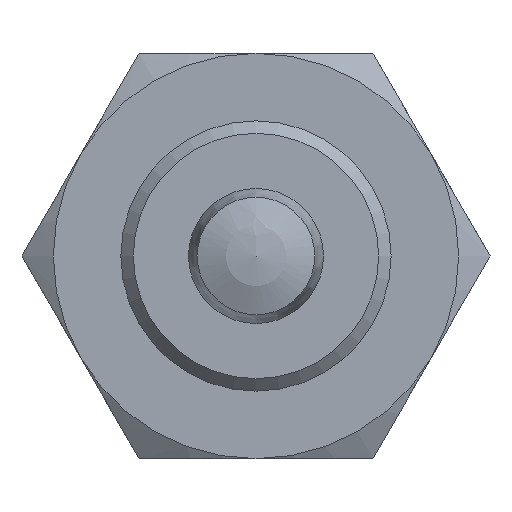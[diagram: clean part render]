
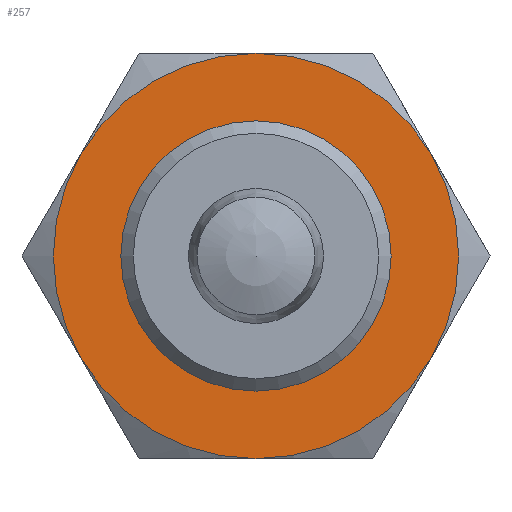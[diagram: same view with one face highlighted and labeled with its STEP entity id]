
A CAD part, front view. The second image highlights one B-rep face of the part: STEP entity #257.
In plain terms, the highlighted planar face has unit normal (0, -1, 0).
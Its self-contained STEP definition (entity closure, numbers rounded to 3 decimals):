
#257 = ADVANCED_FACE( '', ( #387, #388 ), #389, .F. );
#387 = FACE_BOUND( '', #525, .T. );
#388 = FACE_OUTER_BOUND( '', #526, .T. );
#389 = PLANE( '', #527 );
#525 = EDGE_LOOP( '', ( #864 ) );
#526 = EDGE_LOOP( '', ( #865, #866, #867, #868, #869, #870 ) );
#527 = AXIS2_PLACEMENT_3D( '', #871, #872, #873 );
#864 = ORIENTED_EDGE( '', *, *, #991, .F. );
#865 = ORIENTED_EDGE( '', *, *, #986, .T. );
#866 = ORIENTED_EDGE( '', *, *, #988, .T. );
#867 = ORIENTED_EDGE( '', *, *, #990, .T. );
#868 = ORIENTED_EDGE( '', *, *, #959, .T. );
#869 = ORIENTED_EDGE( '', *, *, #984, .T. );
#870 = ORIENTED_EDGE( '', *, *, #985, .T. );
#871 = CARTESIAN_POINT( '', ( 15., 0., 0. ) );
#872 = DIRECTION( '', ( 0., 1., 0. ) );
#873 = DIRECTION( '', ( 0., 0., 1. ) );
#959 = EDGE_CURVE( '', #1101, #1102, #1103, .T. );
#984 = EDGE_CURVE( '', #1102, #1083, #1140, .T. );
#985 = EDGE_CURVE( '', #1083, #1095, #1141, .T. );
#986 = EDGE_CURVE( '', #1095, #1142, #1143, .T. );
#988 = EDGE_CURVE( '', #1142, #1110, #1145, .T. );
#990 = EDGE_CURVE( '', #1110, #1101, #1147, .T. );
#991 = EDGE_CURVE( '', #1148, #1148, #1149, .T. );
#1083 = VERTEX_POINT( '', #1328 );
#1095 = VERTEX_POINT( '', #1366 );
#1101 = VERTEX_POINT( '', #1400 );
#1102 = VERTEX_POINT( '', #1401 );
#1103 = CIRCLE( '', #1402, 15. );
#1110 = VERTEX_POINT( '', #1422 );
#1140 = CIRCLE( '', #1530, 15. );
#1141 = CIRCLE( '', #1531, 15. );
#1142 = VERTEX_POINT( '', #1532 );
#1143 = CIRCLE( '', #1533, 15. );
#1145 = CIRCLE( '', #1540, 15. );
#1147 = CIRCLE( '', #1549, 15. );
#1148 = VERTEX_POINT( '', #1550 );
#1149 = CIRCLE( '', #1551, 10. );
#1328 = CARTESIAN_POINT( '', ( -12.99, 0., -7.5 ) );
#1366 = CARTESIAN_POINT( '', ( 0., 0., -15. ) );
#1400 = CARTESIAN_POINT( '', ( 0., 0., 15. ) );
#1401 = CARTESIAN_POINT( '', ( -12.99, 0., 7.5 ) );
#1402 = AXIS2_PLACEMENT_3D( '', #1646, #1647, #1648 );
#1422 = CARTESIAN_POINT( '', ( 12.99, 0., 7.5 ) );
#1530 = AXIS2_PLACEMENT_3D( '', #1673, #1674, #1675 );
#1531 = AXIS2_PLACEMENT_3D( '', #1676, #1677, #1678 );
#1532 = CARTESIAN_POINT( '', ( 12.99, 0., -7.5 ) );
#1533 = AXIS2_PLACEMENT_3D( '', #1679, #1680, #1681 );
#1540 = AXIS2_PLACEMENT_3D( '', #1682, #1683, #1684 );
#1549 = AXIS2_PLACEMENT_3D( '', #1685, #1686, #1687 );
#1550 = CARTESIAN_POINT( '', ( 0., 0., -10. ) );
#1551 = AXIS2_PLACEMENT_3D( '', #1688, #1689, #1690 );
#1646 = CARTESIAN_POINT( '', ( 0., 0., 0. ) );
#1647 = DIRECTION( '', ( 0., -1., 0. ) );
#1648 = DIRECTION( '', ( 0., 0., -1. ) );
#1673 = CARTESIAN_POINT( '', ( 0., 0., 0. ) );
#1674 = DIRECTION( '', ( 0., -1., 0. ) );
#1675 = DIRECTION( '', ( 0., 0., -1. ) );
#1676 = CARTESIAN_POINT( '', ( 0., 0., 0. ) );
#1677 = DIRECTION( '', ( 0., -1., 0. ) );
#1678 = DIRECTION( '', ( 0., 0., -1. ) );
#1679 = CARTESIAN_POINT( '', ( 0., 0., 0. ) );
#1680 = DIRECTION( '', ( 0., -1., 0. ) );
#1681 = DIRECTION( '', ( 0., 0., -1. ) );
#1682 = CARTESIAN_POINT( '', ( 0., 0., 0. ) );
#1683 = DIRECTION( '', ( 0., -1., 0. ) );
#1684 = DIRECTION( '', ( 0., 0., -1. ) );
#1685 = CARTESIAN_POINT( '', ( 0., 0., 0. ) );
#1686 = DIRECTION( '', ( 0., -1., 0. ) );
#1687 = DIRECTION( '', ( 0., 0., -1. ) );
#1688 = CARTESIAN_POINT( '', ( 0., 0., 0. ) );
#1689 = DIRECTION( '', ( 0., -1., 0. ) );
#1690 = DIRECTION( '', ( 0., 0., -1. ) );
